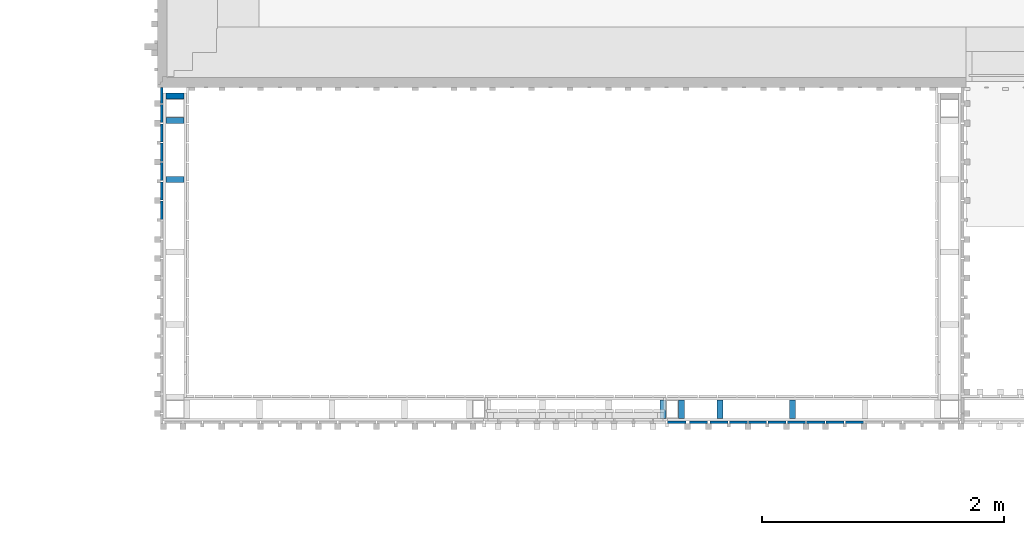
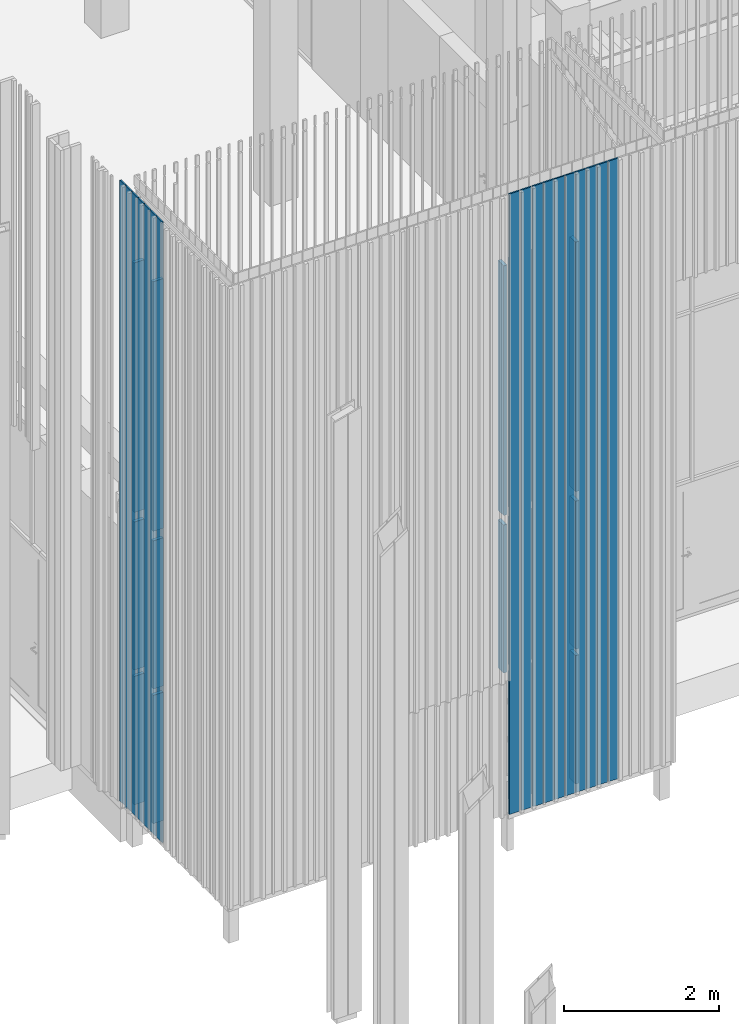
# One storey, part 83 of 390: 35 walls.
"""IFC2X3 building model written with IfcOpenShell, lengths in millimetres."""

from ifc_helpers import new_model, entity, si_unit, converted_unit, derived_unit, money_unit, direction, frame, origin_with_axes, place, context, subcontext, project, spatial, faceted_brep, material, type_object, element, save


model = new_model("IFC2X3")

# Units and contexts
model_context = context("Model", 3, precision=1e-05, world=origin_with_axes(), true_north=direction((0.0, 1.0)))
body_context = subcontext(model_context, "Body", "Model", "MODEL_VIEW")
ifc_project = project(units=[si_unit("LENGTHUNIT", "METRE", prefix="MILLI"), si_unit("AREAUNIT", "SQUARE_METRE"), si_unit("VOLUMEUNIT", "CUBIC_METRE"), converted_unit("PLANEANGLEUNIT", "DEGREE", entity("IfcPlaneAngleMeasure", 0.0174532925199), si_unit("PLANEANGLEUNIT", "RADIAN"), dimensions=[0, 0, 0, 0, 0, 0, 0]), si_unit("SOLIDANGLEUNIT", "STERADIAN"), money_unit("EUR"), converted_unit("TIMEUNIT", "Year", entity("IfcTimeMeasure", 31556926.0), si_unit("TIMEUNIT", "SECOND"), dimensions=[0, 0, 1, 0, 0, 0, 0]), si_unit("MASSUNIT", "GRAM", prefix="KILO"), si_unit("THERMODYNAMICTEMPERATUREUNIT", "DEGREE_CELSIUS"), si_unit("LUMINOUSINTENSITYUNIT", "LUMEN"), si_unit("ENERGYUNIT", "JOULE", prefix="MEGA"), derived_unit("THERMALCONDUCTANCEUNIT", [(si_unit("POWERUNIT", "WATT"), 1), (si_unit("LENGTHUNIT", "METRE"), -1), (si_unit("THERMODYNAMICTEMPERATUREUNIT", "KELVIN"), -1)]), derived_unit("SPECIFICHEATCAPACITYUNIT", [(si_unit("ENERGYUNIT", "JOULE"), 1), (si_unit("MASSUNIT", "GRAM", prefix="KILO"), -1), (si_unit("THERMODYNAMICTEMPERATUREUNIT", "KELVIN"), -1)]), derived_unit("MASSDENSITYUNIT", [(si_unit("MASSUNIT", "GRAM", prefix="KILO"), 1), (si_unit("VOLUMEUNIT", "CUBIC_METRE"), -1)])], contexts=[model_context])

# Site, building, storey
site_placement = place(None, origin_with_axes())
site = spatial("IfcSite", under=ifc_project, at=site_placement, Name="Site", CompositionType="ELEMENT")
building_placement = place(site_placement, origin_with_axes())
building = spatial("IfcBuilding", under=site, at=building_placement, Name="Building", CompositionType="ELEMENT")
storey_placement = place(building_placement, origin_with_axes())
storey = spatial("IfcBuildingStorey", under=building, at=storey_placement, Name="1 korrus", CompositionType="ELEMENT", Elevation=0.0)

# Walls
ifc_material = material(Name="Site specified")
wall_type = type_object("IfcWallType", Name="Puitfassaadi ribistik", PredefinedType="NOTDEFINED")
for number, where, z_axis, x_axis, name in (
    (1, (122447.99996, 44245.0001117, 100.000000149), (0.0, 0.0, 1.0), (0.0, 1.0, 0.0), "Site specified"),
    (2, (122447.99996, 44405.0001117, 100.000000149), (0.0, 0.0, 1.0), (0.0, 1.0, 0.0), "Site specified"),
    (3, (122447.99996, 44565.0001117, 100.000000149), (0.0, 0.0, 1.0), (0.0, 1.0, 0.0), "Site specified"),
    (4, (122447.99996, 44725.0001117, 100.000000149), (0.0, 0.0, 1.0), (0.0, 1.0, 0.0), "Site specified"),
    (5, (122447.99996, 44885.0001117, 100.000000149), (0.0, 0.0, 1.0), (0.0, 1.0, 0.0), "Site specified"),
    (6, (122447.99996, 45045.0001117, 100.000000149), (0.0, 0.0, 1.0), (0.0, 1.0, 0.0), "Site specified"),
):
    element("IfcWall", number, at=place(storey_placement, frame(where, z_axis=z_axis, x_axis=x_axis)), inside=storey, type_object=wall_type, material=ifc_material, Name=name, context=body_context, shape_type="Brep", body=[
        faceted_brep([(75.0, -11.0000000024, 9764.99999985), (-75.0, -11.0000000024, 9764.99999985), (-75.0, -11.0000000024, 0.0), (75.0, -11.0000000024, 0.0), (75.0, 11.0000000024, 9764.99999985), (-75.0, 11.0000000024, 9764.99999985), (-75.0, 11.0000000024, 0.0), (75.0, 11.0000000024, 0.0)], [[[0, 1, 2, 3]], [[4, 5, 1, 0]], [[1, 5, 6, 2]], [[7, 3, 2, 6]], [[4, 0, 3, 7]], [[5, 4, 7, 6]]]),
    ])
wall_1_placement = place(storey_placement, frame((122447.99996, 45205.0001117, 100.000000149), z_axis=(0.0, 0.0, 1.0), x_axis=(0.0, 1.0, 0.0)))
element("IfcWall", 7, at=wall_1_placement, inside=storey, type_object=wall_type, material=ifc_material, Name="Site specified", context=body_context, shape_type="Brep", body=[
    faceted_brep([(-75.0, -11.0000000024, 9764.99999985), (-75.0, -11.0000000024, 0.0), (57.9998004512, -11.0000000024, -3.12924797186e-06), (57.9998967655, -11.0000000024, 9764.99999985), (-75.0, 11.0000000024, 9764.99999985), (-75.0, 11.0000000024, 0.0), (57.9998004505, 11.0000000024, -3.12924797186e-06), (57.9998967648, 11.0000000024, 9764.99999985)], [[[0, 1, 2, 3]], [[1, 0, 4, 5]], [[1, 5, 6, 2]], [[6, 7, 3, 2]], [[4, 0, 3, 7]], [[4, 7, 6, 5]]]),
])
wall_2_placement = place(storey_placement, frame((122554.99996, 45189.0001117, 15.0000000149), z_axis=(0.0, 0.0, 1.0), x_axis=(0.0, 1.0, 0.0)))
element("IfcWall", 8, at=wall_2_placement, inside=storey, type_object=wall_type, material=ifc_material, Name="Site specified", context=body_context, shape_type="Brep", body=[
    faceted_brep([(25.0, -74.9999999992, 8712.99999761), (-25.0, -74.9999999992, 8712.99999761), (-25.0, -74.9999999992, 0.0), (25.0, -74.9999999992, 0.0), (25.0, 74.9999999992, 8712.99999761), (-25.0, 74.9999999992, 8712.99999761), (-25.0, 74.9999999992, 0.0), (25.0, 74.9999999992, 0.0)], [[[0, 1, 2, 3]], [[4, 5, 1, 0]], [[1, 5, 6, 2]], [[7, 3, 2, 6]], [[4, 0, 3, 7]], [[5, 4, 7, 6]]]),
])
wall_3_placement = place(storey_placement, frame((122554.99996, 44989.0001117, 4800.00000001), z_axis=(0.0, 0.0, 1.0), x_axis=(0.0, 1.0, 0.0)))
element("IfcWall", 9, at=wall_3_placement, inside=storey, type_object=wall_type, material=ifc_material, Name="Site specified", context=body_context, shape_type="Brep", body=[
    faceted_brep([(25.0, -74.9999999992, 3927.99999761), (-25.0, -74.9999999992, 3927.99999761), (-25.0, -74.9999999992, 0.0), (25.0, -74.9999999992, 0.0), (25.0, 74.9999999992, 3927.99999761), (-25.0, 74.9999999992, 3927.99999761), (-25.0, 74.9999999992, 0.0), (25.0, 74.9999999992, 0.0)], [[[0, 1, 2, 3]], [[4, 5, 1, 0]], [[1, 5, 6, 2]], [[7, 3, 2, 6]], [[4, 0, 3, 7]], [[5, 4, 7, 6]]]),
])
wall_4_placement = place(storey_placement, frame((122554.99996, 44989.0001117, 2320.00000001), z_axis=(0.0, 0.0, 1.0), x_axis=(0.0, 1.0, 0.0)))
element("IfcWall", 10, at=wall_4_placement, inside=storey, type_object=wall_type, material=ifc_material, Name="Site specified", context=body_context, shape_type="Brep", body=[
    faceted_brep([(25.0, -74.9999999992, 2330.0), (-25.0, -74.9999999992, 2330.0), (-25.0, -74.9999999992, 0.0), (25.0, -74.9999999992, 0.0), (25.0, 74.9999999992, 2330.0), (-25.0, 74.9999999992, 2330.0), (-25.0, 74.9999999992, 0.0), (25.0, 74.9999999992, 0.0)], [[[0, 1, 2, 3]], [[4, 5, 1, 0]], [[1, 5, 6, 2]], [[7, 3, 2, 6]], [[4, 0, 3, 7]], [[5, 4, 7, 6]]]),
])
wall_5_placement = place(storey_placement, frame((122554.99996, 44989.0001117, 200.000000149), z_axis=(0.0, 0.0, 1.0), x_axis=(0.0, 1.0, 0.0)))
element("IfcWall", 11, at=wall_5_placement, inside=storey, type_object=wall_type, material=ifc_material, Name="Site specified", context=body_context, shape_type="Brep", body=[
    faceted_brep([(25.0, -74.9999999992, 2019.99999987), (-25.0, -74.9999999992, 2019.99999987), (-25.0, -74.9999999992, 0.0), (25.0, -74.9999999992, 0.0), (25.0, 74.9999999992, 2019.99999987), (-25.0, 74.9999999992, 2019.99999987), (-25.0, 74.9999999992, 0.0), (25.0, 74.9999999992, 0.0)], [[[0, 1, 2, 3]], [[4, 5, 1, 0]], [[1, 5, 6, 2]], [[7, 3, 2, 6]], [[4, 0, 3, 7]], [[5, 4, 7, 6]]]),
])
wall_6_placement = place(storey_placement, frame((122554.99996, 44499.0001117, 4800.00000001), z_axis=(0.0, 0.0, 1.0), x_axis=(0.0, 1.0, 0.0)))
element("IfcWall", 12, at=wall_6_placement, inside=storey, type_object=wall_type, material=ifc_material, Name="Site specified", context=body_context, shape_type="Brep", body=[
    faceted_brep([(25.0, -74.9999999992, 3927.99999761), (-25.0, -74.9999999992, 3927.99999761), (-25.0, -74.9999999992, 0.0), (25.0, -74.9999999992, 0.0), (25.0, 74.9999999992, 3927.99999761), (-25.0, 74.9999999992, 3927.99999761), (-25.0, 74.9999999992, 0.0), (25.0, 74.9999999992, 0.0)], [[[0, 1, 2, 3]], [[4, 5, 1, 0]], [[1, 5, 6, 2]], [[7, 3, 2, 6]], [[4, 0, 3, 7]], [[5, 4, 7, 6]]]),
])
wall_7_placement = place(storey_placement, frame((122554.99996, 44499.0001117, 2320.00000001), z_axis=(0.0, 0.0, 1.0), x_axis=(0.0, 1.0, 0.0)))
element("IfcWall", 13, at=wall_7_placement, inside=storey, type_object=wall_type, material=ifc_material, Name="Site specified", context=body_context, shape_type="Brep", body=[
    faceted_brep([(25.0, -74.9999999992, 2330.0), (-25.0, -74.9999999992, 2330.0), (-25.0, -74.9999999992, 0.0), (25.0, -74.9999999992, 0.0), (25.0, 74.9999999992, 2330.0), (-25.0, 74.9999999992, 2330.0), (-25.0, 74.9999999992, 0.0), (25.0, 74.9999999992, 0.0)], [[[0, 1, 2, 3]], [[4, 5, 1, 0]], [[1, 5, 6, 2]], [[7, 3, 2, 6]], [[4, 0, 3, 7]], [[5, 4, 7, 6]]]),
])
for number, where, z_axis, x_axis, name in (
    (14, (122554.99996, 44499.0001117, 200.000000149), (0.0, 0.0, 1.0), (0.0, 1.0, 0.0), "Site specified"),
    (15, (126744.99996, 42599.000112, 200.000000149), (0.0, 0.0, 1.0), (-1.0, 0.0, 0.0), "Site specified"),
):
    element("IfcWall", number, at=place(storey_placement, frame(where, z_axis=z_axis, x_axis=x_axis)), inside=storey, type_object=wall_type, material=ifc_material, Name=name, context=body_context, shape_type="Brep", body=[
        faceted_brep([(25.0, -74.9999999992, 2019.99999987), (-25.0, -74.9999999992, 2019.99999987), (-25.0, -74.9999999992, 0.0), (25.0, -74.9999999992, 0.0), (25.0, 74.9999999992, 2019.99999987), (-25.0, 74.9999999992, 2019.99999987), (-25.0, 74.9999999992, 0.0), (25.0, 74.9999999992, 0.0)], [[[0, 1, 2, 3]], [[4, 5, 1, 0]], [[1, 5, 6, 2]], [[7, 3, 2, 6]], [[4, 0, 3, 7]], [[5, 4, 7, 6]]]),
    ])
wall_8_placement = place(storey_placement, frame((126744.99996, 42599.000112, 2320.00000001), z_axis=(0.0, 0.0, 1.0), x_axis=(-1.0, 0.0, 0.0)))
element("IfcWall", 16, at=wall_8_placement, inside=storey, type_object=wall_type, material=ifc_material, Name="Site specified", context=body_context, shape_type="Brep", body=[
    faceted_brep([(25.0, -74.9999999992, 2330.0), (-25.0, -74.9999999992, 2330.0), (-25.0, -74.9999999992, 0.0), (25.0, -74.9999999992, 0.0), (25.0, 74.9999999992, 2330.0), (-25.0, 74.9999999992, 2330.0), (-25.0, 74.9999999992, 0.0), (25.0, 74.9999999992, 0.0)], [[[0, 1, 2, 3]], [[4, 5, 1, 0]], [[1, 5, 6, 2]], [[7, 3, 2, 6]], [[4, 0, 3, 7]], [[5, 4, 7, 6]]]),
])
wall_9_placement = place(storey_placement, frame((126744.99996, 42599.000112, 4800.00000001), z_axis=(0.0, 0.0, 1.0), x_axis=(-1.0, 0.0, 0.0)))
element("IfcWall", 17, at=wall_9_placement, inside=storey, type_object=wall_type, material=ifc_material, Name="Site specified", context=body_context, shape_type="Brep", body=[
    faceted_brep([(25.0, -74.9999999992, 3927.99999761), (-25.0, -74.9999999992, 3927.99999761), (-25.0, -74.9999999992, 0.0), (25.0, -74.9999999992, 0.0), (25.0, 74.9999999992, 3927.99999761), (-25.0, 74.9999999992, 3927.99999761), (-25.0, 74.9999999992, 0.0), (25.0, 74.9999999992, 0.0)], [[[0, 1, 2, 3]], [[4, 5, 1, 0]], [[1, 5, 6, 2]], [[7, 3, 2, 6]], [[4, 0, 3, 7]], [[5, 4, 7, 6]]]),
])
wall_10_placement = place(storey_placement, frame((127064.999994, 42599.0000344, 200.000000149), z_axis=(0.0, 0.0, 1.0), x_axis=(-1.0, 0.0, 0.0)))
element("IfcWall", 18, at=wall_10_placement, inside=storey, type_object=wall_type, material=ifc_material, Name="Site specified", context=body_context, shape_type="Brep", body=[
    faceted_brep([(25.0, -74.9999999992, 2019.99999987), (-25.0, -74.9999999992, 2019.99999987), (-25.0, -74.9999999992, 0.0), (25.0, -74.9999999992, 0.0), (25.0, 74.9999999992, 2019.99999987), (-25.0, 74.9999999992, 2019.99999987), (-25.0, 74.9999999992, 0.0), (25.0, 74.9999999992, 0.0)], [[[0, 1, 2, 3]], [[4, 5, 1, 0]], [[1, 5, 6, 2]], [[7, 3, 2, 6]], [[4, 0, 3, 7]], [[5, 4, 7, 6]]]),
])
wall_11_placement = place(storey_placement, frame((127064.999994, 42599.0000344, 2320.00000001), z_axis=(0.0, 0.0, 1.0), x_axis=(-1.0, 0.0, 0.0)))
element("IfcWall", 19, at=wall_11_placement, inside=storey, type_object=wall_type, material=ifc_material, Name="Site specified", context=body_context, shape_type="Brep", body=[
    faceted_brep([(25.0, -74.9999999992, 2330.0), (-25.0, -74.9999999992, 2330.0), (-25.0, -74.9999999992, 0.0), (25.0, -74.9999999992, 0.0), (25.0, 74.9999999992, 2330.0), (-25.0, 74.9999999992, 2330.0), (-25.0, 74.9999999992, 0.0), (25.0, 74.9999999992, 0.0)], [[[0, 1, 2, 3]], [[4, 5, 1, 0]], [[1, 5, 6, 2]], [[7, 3, 2, 6]], [[4, 0, 3, 7]], [[5, 4, 7, 6]]]),
])
wall_12_placement = place(storey_placement, frame((127064.999994, 42599.0000344, 4800.00000001), z_axis=(0.0, 0.0, 1.0), x_axis=(-1.0, 0.0, 0.0)))
element("IfcWall", 20, at=wall_12_placement, inside=storey, type_object=wall_type, material=ifc_material, Name="Site specified", context=body_context, shape_type="Brep", body=[
    faceted_brep([(25.0, -74.9999999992, 3927.99999761), (-25.0, -74.9999999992, 3927.99999761), (-25.0, -74.9999999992, 0.0), (25.0, -74.9999999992, 0.0), (25.0, 74.9999999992, 3927.99999761), (-25.0, 74.9999999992, 3927.99999761), (-25.0, 74.9999999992, 0.0), (25.0, 74.9999999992, 0.0)], [[[0, 1, 2, 3]], [[4, 5, 1, 0]], [[1, 5, 6, 2]], [[7, 3, 2, 6]], [[4, 0, 3, 7]], [[5, 4, 7, 6]]]),
])
wall_13_placement = place(storey_placement, frame((127664.999994, 42599.0000344, 200.000000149), z_axis=(0.0, 0.0, 1.0), x_axis=(-1.0, 0.0, 0.0)))
element("IfcWall", 21, at=wall_13_placement, inside=storey, type_object=wall_type, material=ifc_material, Name="Site specified", context=body_context, shape_type="Brep", body=[
    faceted_brep([(25.0, -74.9999999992, 2019.99999987), (-25.0, -74.9999999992, 2019.99999987), (-25.0, -74.9999999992, 0.0), (25.0, -74.9999999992, 0.0), (25.0, 74.9999999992, 2019.99999987), (-25.0, 74.9999999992, 2019.99999987), (-25.0, 74.9999999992, 0.0), (25.0, 74.9999999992, 0.0)], [[[0, 1, 2, 3]], [[4, 5, 1, 0]], [[1, 5, 6, 2]], [[7, 3, 2, 6]], [[4, 0, 3, 7]], [[5, 4, 7, 6]]]),
])
wall_14_placement = place(storey_placement, frame((127664.999994, 42599.0000344, 2320.00000001), z_axis=(0.0, 0.0, 1.0), x_axis=(-1.0, 0.0, 0.0)))
element("IfcWall", 22, at=wall_14_placement, inside=storey, type_object=wall_type, material=ifc_material, Name="Site specified", context=body_context, shape_type="Brep", body=[
    faceted_brep([(25.0, -74.9999999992, 2330.0), (-25.0, -74.9999999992, 2330.0), (-25.0, -74.9999999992, 0.0), (25.0, -74.9999999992, 0.0), (25.0, 74.9999999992, 2330.0), (-25.0, 74.9999999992, 2330.0), (-25.0, 74.9999999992, 0.0), (25.0, 74.9999999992, 0.0)], [[[0, 1, 2, 3]], [[4, 5, 1, 0]], [[1, 5, 6, 2]], [[7, 3, 2, 6]], [[4, 0, 3, 7]], [[5, 4, 7, 6]]]),
])
wall_15_placement = place(storey_placement, frame((127664.999994, 42599.0000344, 4800.00000001), z_axis=(0.0, 0.0, 1.0), x_axis=(-1.0, 0.0, 0.0)))
element("IfcWall", 23, at=wall_15_placement, inside=storey, type_object=wall_type, material=ifc_material, Name="Site specified", context=body_context, shape_type="Brep", body=[
    faceted_brep([(25.0, -74.9999999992, 3927.99999761), (-25.0, -74.9999999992, 3927.99999761), (-25.0, -74.9999999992, 0.0), (25.0, -74.9999999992, 0.0), (25.0, 74.9999999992, 3927.99999761), (-25.0, 74.9999999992, 3927.99999761), (-25.0, 74.9999999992, 0.0), (25.0, 74.9999999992, 0.0)], [[[0, 1, 2, 3]], [[4, 5, 1, 0]], [[1, 5, 6, 2]], [[7, 3, 2, 6]], [[4, 0, 3, 7]], [[5, 4, 7, 6]]]),
])
for number, where, z_axis, x_axis, name in (
    (24, (126707.002725, 42491.9999887, 100.000000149), (0.0, 0.0, 1.0), (-1.0, 0.0, 0.0), "Site specified"),
    (25, (127856.999994, 42492.0000037, 100.000000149), (0.0, 0.0, 1.0), (-1.0, 0.0, 0.0), "Site specified"),
    (26, (128016.999994, 42492.0000037, 100.000000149), (0.0, 0.0, 1.0), (-1.0, 0.0, 0.0), "Site specified"),
    (27, (128176.999994, 42492.0000112, 100.000000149), (0.0, 0.0, 1.0), (-1.0, 0.0, 0.0), "Site specified"),
    (28, (126886.999994, 42491.9999887, 100.000000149), (0.0, 0.0, 1.0), (-1.0, 0.0, 0.0), "Site specified"),
    (29, (127056.999994, 42491.9999887, 100.000000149), (0.0, 0.0, 1.0), (-1.0, 0.0, 0.0), "Site specified"),
    (30, (127216.999994, 42491.9999887, 100.000000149), (0.0, 0.0, 1.0), (-1.0, 0.0, 0.0), "Site specified"),
    (31, (127376.999994, 42491.9999887, 100.000000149), (0.0, 0.0, 1.0), (-1.0, 0.0, 0.0), "Site specified"),
    (32, (127536.999994, 42491.9999962, 100.000000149), (0.0, 0.0, 1.0), (-1.0, 0.0, 0.0), "Site specified"),
    (33, (127696.999994, 42491.9999962, 100.000000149), (0.0, 0.0, 1.0), (-1.0, 0.0, 0.0), "Site specified"),
):
    element("IfcWall", number, at=place(storey_placement, frame(where, z_axis=z_axis, x_axis=x_axis)), inside=storey, type_object=wall_type, material=ifc_material, Name=name, context=body_context, shape_type="Brep", body=[
        faceted_brep([(75.0, -11.0000000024, 9764.99999985), (-75.0, -11.0000000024, 9764.99999985), (-75.0, -11.0000000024, 0.0), (75.0, -11.0000000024, 0.0), (75.0, 11.0000000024, 9764.99999985), (-75.0, 11.0000000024, 9764.99999985), (-75.0, 11.0000000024, 0.0), (75.0, 11.0000000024, 0.0)], [[[0, 1, 2, 3]], [[4, 5, 1, 0]], [[1, 5, 6, 2]], [[7, 3, 2, 6]], [[4, 0, 3, 7]], [[5, 4, 7, 6]]]),
    ])
wall_16_placement = place(storey_placement, frame((126594.99996, 42599.000112, 2320.00000001), z_axis=(0.0, 0.0, 1.0), x_axis=(-1.0, 0.0, 0.0)))
element("IfcWall", 34, at=wall_16_placement, inside=storey, type_object=wall_type, material=ifc_material, Name="Site specified", context=body_context, shape_type="Brep", body=[
    faceted_brep([(25.0, -74.9999999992, 2330.0), (-25.0, -74.9999999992, 2330.0), (-25.0, -74.9999999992, 0.0), (25.0, -74.9999999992, 0.0), (25.0, 74.9999999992, 2330.0), (-25.0, 74.9999999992, 2330.0), (-25.0, 74.9999999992, 0.0), (25.0, 74.9999999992, 0.0)], [[[0, 1, 2, 3]], [[4, 5, 1, 0]], [[1, 5, 6, 2]], [[7, 3, 2, 6]], [[4, 0, 3, 7]], [[5, 4, 7, 6]]]),
])
wall_17_placement = place(storey_placement, frame((126594.99996, 42599.000112, 4800.00000001), z_axis=(0.0, 0.0, 1.0), x_axis=(-1.0, 0.0, 0.0)))
element("IfcWall", 35, at=wall_17_placement, inside=storey, type_object=wall_type, material=ifc_material, Name="Site specified", context=body_context, shape_type="Brep", body=[
    faceted_brep([(25.0, -74.9999999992, 3927.99999761), (-25.0, -74.9999999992, 3927.99999761), (-25.0, -74.9999999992, 0.0), (25.0, -74.9999999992, 0.0), (25.0, 74.9999999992, 3927.99999761), (-25.0, 74.9999999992, 3927.99999761), (-25.0, 74.9999999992, 0.0), (25.0, 74.9999999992, 0.0)], [[[0, 1, 2, 3]], [[4, 5, 1, 0]], [[1, 5, 6, 2]], [[7, 3, 2, 6]], [[4, 0, 3, 7]], [[5, 4, 7, 6]]]),
])

save(model, "model.ifc")
